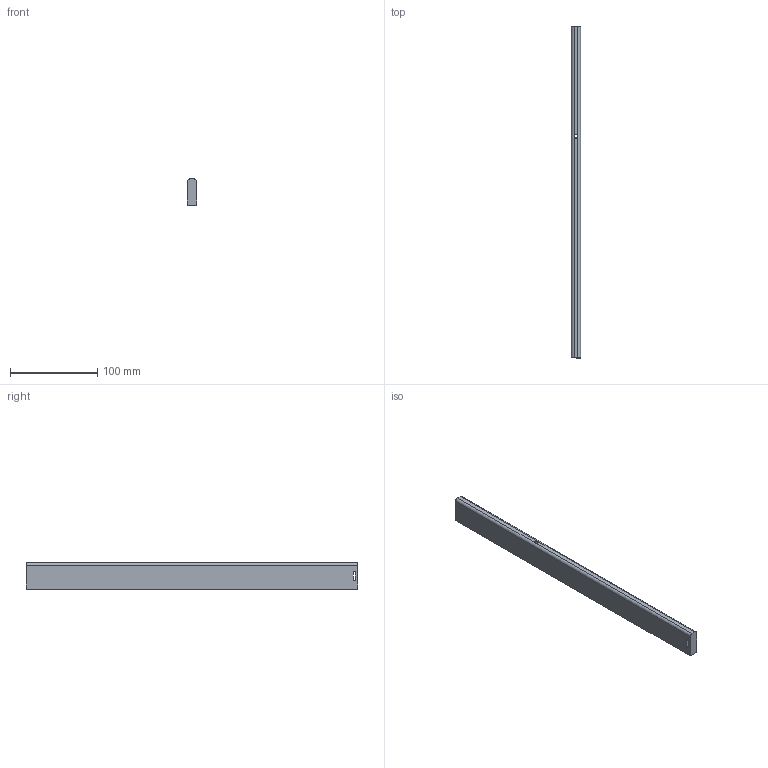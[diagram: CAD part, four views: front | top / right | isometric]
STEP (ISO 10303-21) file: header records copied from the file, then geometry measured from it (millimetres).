
FILE_DESCRIPTION (( 'STEP AP214' ), '1' );
FILE_NAME ('_Seitenreling_S760609500_RL379,5.step', '2010-09-06T14:51:33', ( 'grass' ), ( '' ), 'SwSTEP 2.0', 'SolidWorks 2010', '' );
FILE_SCHEMA (( 'AUTOMOTIVE_DESIGN' ));
Length unit declared in the file: millimetre
Products named in the file (1): _Seitenreling_S760609500_RL379,5
Bounding box: 10.5 x 379.5 x 30 mm (x, y, z)
Volume: 116690.5 mm3; surface area: 31237.7 mm2
Topology: 1 solids, 1 shells, 23 faces, 56 edges, 36 vertices
Faces by surface type: plane 15, cylinder 8
Entity records: 716 total; most frequent: DIRECTION 120, CARTESIAN_POINT 116, ORIENTED_EDGE 112, EDGE_CURVE 56, LINE 40, VECTOR 40, AXIS2_PLACEMENT_3D 40, VERTEX_POINT 36
